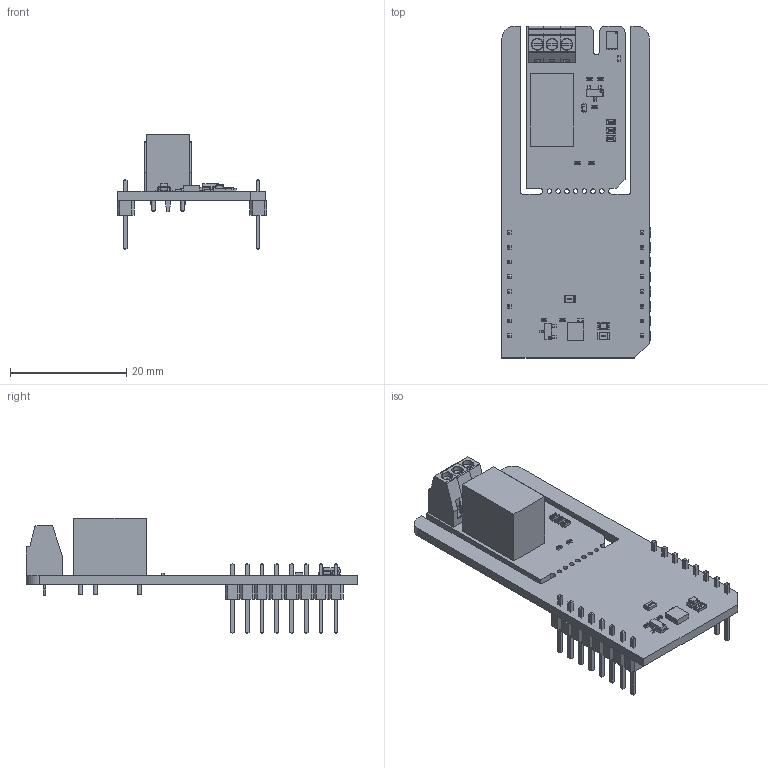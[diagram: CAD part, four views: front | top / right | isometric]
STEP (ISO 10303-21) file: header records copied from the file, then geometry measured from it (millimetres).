
FILE_DESCRIPTION(('Open CASCADE Model'),'2;1');
FILE_NAME('Open CASCADE Shape Model','2026-01-22T09:38:22',('Author'),( 'Open CASCADE'),'Open CASCADE STEP processor 6.8','Open CASCADE 6.8' ,'Unknown');
FILE_SCHEMA(('AUTOMOTIVE_DESIGN { 1 0 10303 214 1 1 1 1 }'));
Length unit declared in the file: millimetre
Products named in the file (51): PCB; Board; R8; User_Library-R_0402; R1; User_Library-R_0805; LD1; led_0805_green; R2; C1; User_Library-SMD_CAPACITOR0402; R4; Q1; SOT23-3; U1; 737488224; Extruded; MBD1; Header_1x8; Free-Models; 1240637040; User_Library-PinHeaderX5-1_PinHeaderX5_Body_1; User_Library-PinHeaderX5-1_PinHeaderX5_Pins_1; JP1; C2; CN1; ScrewTerminal_2.54; D1; SOD-523F; JP2; User_Library-R_0603; JP3; JP4; Q2; R3; R5; R6; R7; REL1; 966547416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
Assembly tree (76 placements, depth 7):
  PCB
    Board
    R8
      User_Library-R_0402
    R1
      User_Library-R_0805
    LD1
      led_0805_green
    R2
      User_Library-R_0402
    C1
      User_Library-SMD_CAPACITOR0402
    R4
      User_Library-R_0402
    Q1
      SOT23-3
    U1
      737488224
        Extruded
    MBD1
      Header_1x8  x2
        PCB
          Free-Models
            1240637040  x2
              User_Library-PinHeaderX5-1_PinHeaderX5_Body_1
              User_Library-PinHeaderX5-1_PinHeaderX5_Pins_1
    JP1
      User_Library-R_0805
    C2
      User_Library-SMD_CAPACITOR0402
    CN1
      ScrewTerminal_2.54  x2
    D1
      SOD-523F
    JP2
      User_Library-R_0603
    JP3
      User_Library-R_0603
    JP4
      User_Library-R_0603
    Q2
      SOT23-3
    R3
      User_Library-R_0402
    R5
      User_Library-R_0402
    R6
      User_Library-R_0402
    R7
      User_Library-R_0402
    REL1
      966547416
        Extruded
      973139696  x6
        Cylinder
    U2
      973139568
        Cylinder
      966547144  x8
        Extruded
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Bounding box: 25.78 x 57.15 x 19.96 mm (x, y, z)
Volume: 3959.7 mm3; surface area: 6739.5 mm2
Topology: 95 solids, 95 shells, 2323 faces, 5825 edges, 3770 vertices
Faces by surface type: plane 1713, bspline 405, cylinder 181, sphere 24
Full cylindrical faces by diameter (mm): 0.26 x1, 0.7 x6, 0.8 x7
Entity records: 36064 total; most frequent: CARTESIAN_POINT 11631, ORIENTED_EDGE 4144, DIRECTION 3637, EDGE_CURVE 2072, LINE 1609, VECTOR 1609, VERTEX_POINT 1340, AXIS2_PLACEMENT_3D 1014
